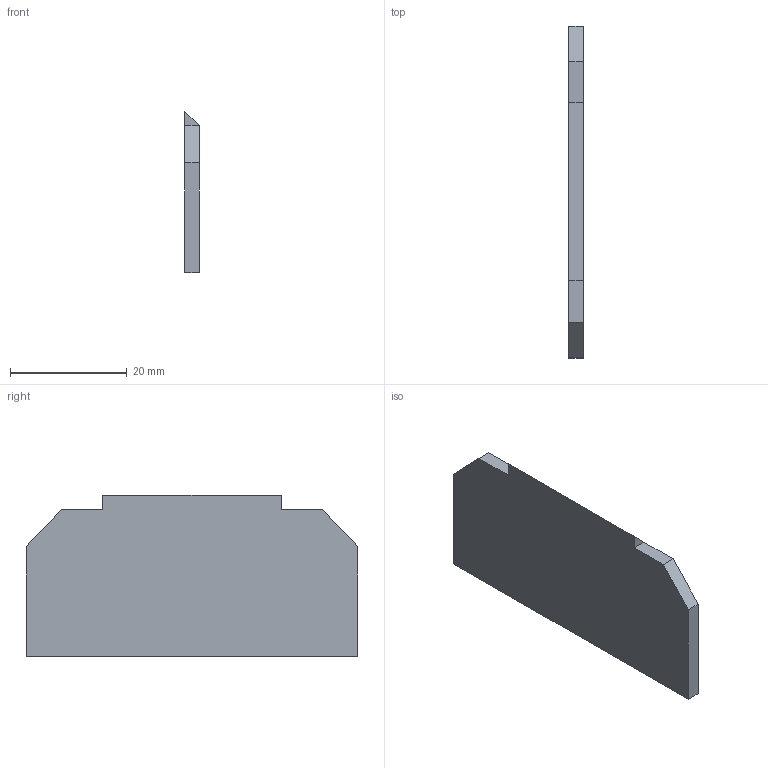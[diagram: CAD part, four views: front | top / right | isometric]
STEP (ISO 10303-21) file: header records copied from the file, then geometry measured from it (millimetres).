
FILE_DESCRIPTION( ('This file contains a STEP AP42 implementation' ,'as created by ZW3D STEP Interface translator.') ,'2;1' );
FILE_NAME( 'DP-RUKK3-5諾潔硃野啣-耀倰.stp' ,'231227.162523', (''), ('ZWCAD Software Co.'), 'Version 1.0', 'ZW3D to STEP translator', '' );
FILE_SCHEMA(('AUTOMOTIVE_DESIGN { 1 0 10303 214 1 1 1 1 }'));
Length unit declared in the file: millimetre
Products named in the file (2): 0; DP-RUKK3-5諾潔硃野啣-耀倰
Bounding box: 2.4 x 56.8 x 27.6 mm (x, y, z)
Volume: 3429.4 mm3; surface area: 3270 mm2
Topology: 1 solids, 1 shells, 12 faces, 28 edges, 18 vertices
Faces by surface type: plane 12
Entity records: 378 total; most frequent: CARTESIAN_POINT 59, ORIENTED_EDGE 56, DIRECTION 54, VECTOR 28, LINE 28, EDGE_CURVE 28, VERTEX_POINT 18, AXIS2_PLACEMENT_3D 13
